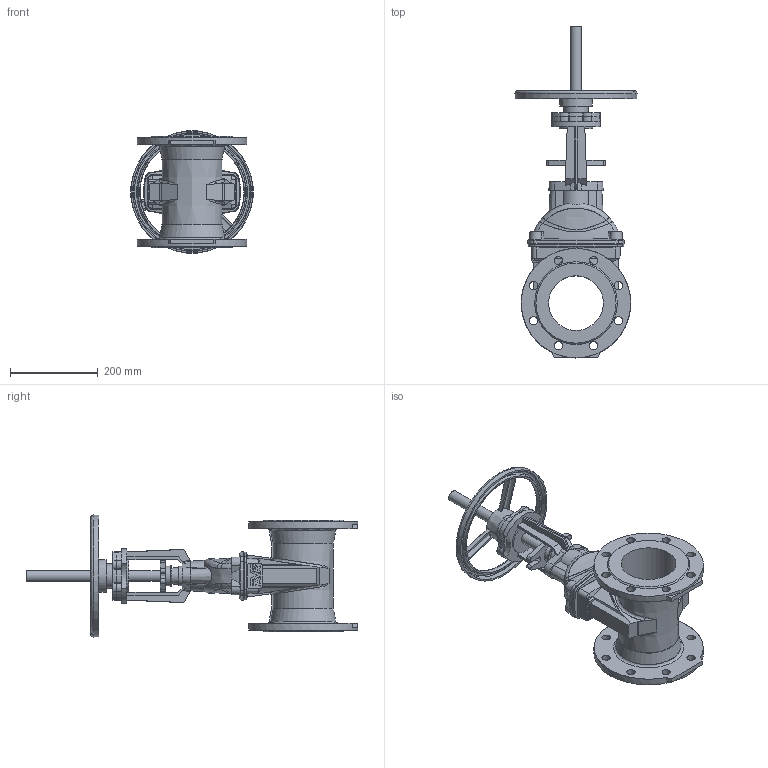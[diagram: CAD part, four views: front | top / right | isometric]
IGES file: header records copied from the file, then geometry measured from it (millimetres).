
Start section: SolidWorks IGES file using analytic representation for surfaces
Global section: file name: \\avksan2\techshare\PBM outline export from Enovia\O_21_34_DN125_41XXXXX open_REV01.igs; native system: SolidWorks 2019; preprocessor: SolidWorks 2019; author: pbm; date: 220215.082054; units: millimetre
Bounding box: 278.92 x 758.37 x 278.92 mm (x, y, z)
Surface area: 715725.3 mm2 (no closed solid volume)
Topology: 0 solids, 0 shells, 486 faces, 3213 edges, 3167 vertices
Faces by surface type: bspline 292, revolution 194
